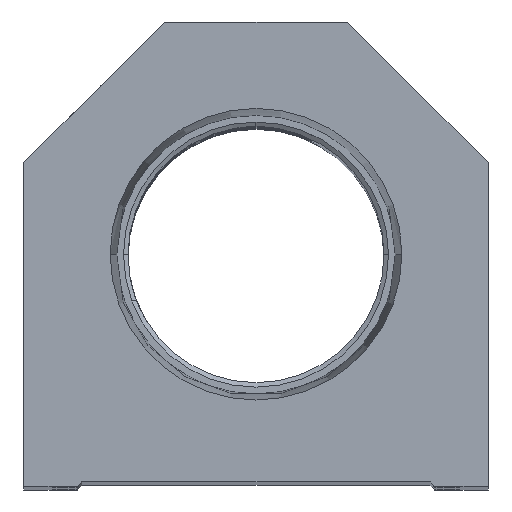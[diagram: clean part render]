
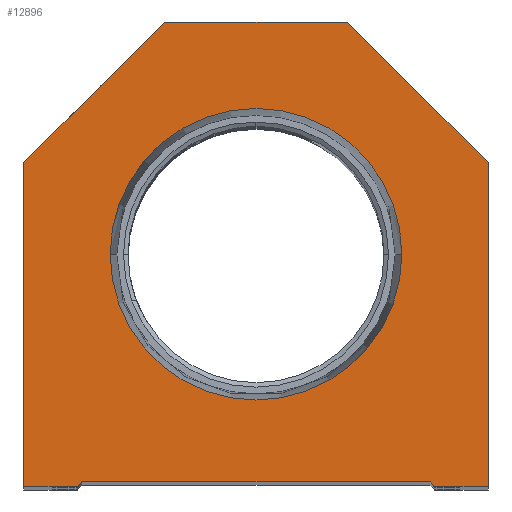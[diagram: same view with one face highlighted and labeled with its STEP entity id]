
A CAD part, top view. The second image highlights one B-rep face of the part: STEP entity #12896.
In plain terms, the highlighted planar face has unit normal (0, 0, 1).
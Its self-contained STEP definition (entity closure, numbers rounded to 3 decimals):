
#426 = ORIENTED_EDGE ( 'NONE', *, *, #10719, .T. ) ;
#454 = ORIENTED_EDGE ( 'NONE', *, *, #18433, .T. ) ;
#851 = DIRECTION ( 'NONE',  ( -0.707, 0.707, 0. ) ) ;
#1131 = DIRECTION ( 'NONE',  ( 1., 0., 0. ) ) ;
#1247 = CIRCLE ( 'NONE', #12909, 15.947 ) ;
#1484 = CARTESIAN_POINT ( 'NONE',  ( 10., 50.8, 0. ) ) ;
#2012 = EDGE_CURVE ( 'NONE', #6857, #8100, #1247, .T. ) ;
#2230 = DIRECTION ( 'NONE',  ( 0.707, -0.707, 0. ) ) ;
#2273 = VERTEX_POINT ( 'NONE', #10063 ) ;
#2659 = EDGE_CURVE ( 'NONE', #7450, #7193, #18066, .T. ) ;
#2679 = ORIENTED_EDGE ( 'NONE', *, *, #5629, .T. ) ;
#2766 = AXIS2_PLACEMENT_3D ( 'NONE', #5422, #19275, #13324 ) ;
#3266 = DIRECTION ( 'NONE',  ( 1., 0., 0. ) ) ;
#3482 = VECTOR ( 'NONE', #5073, 1000. ) ;
#3712 = LINE ( 'NONE', #17856, #13390 ) ;
#4009 = VERTEX_POINT ( 'NONE', #19668 ) ;
#4215 = ORIENTED_EDGE ( 'NONE', *, *, #16761, .T. ) ;
#4740 = CARTESIAN_POINT ( 'NONE',  ( 19.05, 0., 0. ) ) ;
#5013 = ORIENTED_EDGE ( 'NONE', *, *, #14643, .T. ) ;
#5073 = DIRECTION ( 'NONE',  ( 1., 0., 0. ) ) ;
#5201 = EDGE_LOOP ( 'NONE', ( #454, #18058, #5013, #10472, #8407, #2679, #13907, #426, #4215, #13938 ) ) ;
#5394 = VERTEX_POINT ( 'NONE', #12248 ) ;
#5422 = CARTESIAN_POINT ( 'NONE',  ( 0., 0., 0. ) ) ;
#5501 = VERTEX_POINT ( 'NONE', #13228 ) ;
#5629 = EDGE_CURVE ( 'NONE', #4009, #19317, #12615, .T. ) ;
#5876 = VERTEX_POINT ( 'NONE', #8430 ) ;
#6105 = VECTOR ( 'NONE', #9220, 1000. ) ;
#6107 = LINE ( 'NONE', #4740, #6105 ) ;
#6392 = DIRECTION ( 'NONE',  ( 0., 1., 0. ) ) ;
#6583 = AXIS2_PLACEMENT_3D ( 'NONE', #8033, #20534, #3266 ) ;
#6857 = VERTEX_POINT ( 'NONE', #11455 ) ;
#7039 = DIRECTION ( 'NONE',  ( 1., 0., 0. ) ) ;
#7193 = VERTEX_POINT ( 'NONE', #15036 ) ;
#7292 = EDGE_CURVE ( 'NONE', #8100, #6857, #15203, .T. ) ;
#7450 = VERTEX_POINT ( 'NONE', #11895 ) ;
#7833 = DIRECTION ( 'NONE',  ( -1., 0., 0. ) ) ;
#7975 = ORIENTED_EDGE ( 'NONE', *, *, #2012, .F. ) ;
#8033 = CARTESIAN_POINT ( 'NONE',  ( 0., 25.4, 0. ) ) ;
#8100 = VERTEX_POINT ( 'NONE', #8592 ) ;
#8407 = ORIENTED_EDGE ( 'NONE', *, *, #13472, .T. ) ;
#8430 = CARTESIAN_POINT ( 'NONE',  ( 10., 50.8, 0. ) ) ;
#8592 = CARTESIAN_POINT ( 'NONE',  ( -15.947, 25.4, 0. ) ) ;
#8712 = VERTEX_POINT ( 'NONE', #12260 ) ;
#9220 = DIRECTION ( 'NONE',  ( 1., 0., 0. ) ) ;
#9600 = LINE ( 'NONE', #1484, #15639 ) ;
#10063 = CARTESIAN_POINT ( 'NONE',  ( -19.55, 0., 0. ) ) ;
#10250 = LINE ( 'NONE', #12018, #11898 ) ;
#10423 = DIRECTION ( 'NONE',  ( 0., -1., 0. ) ) ;
#10472 = ORIENTED_EDGE ( 'NONE', *, *, #2659, .T. ) ;
#10561 = CARTESIAN_POINT ( 'NONE',  ( 25.4, 35.4, 0. ) ) ;
#10719 = EDGE_CURVE ( 'NONE', #5876, #8712, #9600, .T. ) ;
#10775 = VECTOR ( 'NONE', #10423, 1000. ) ;
#10813 = CARTESIAN_POINT ( 'NONE',  ( -25.4, 35.4, 0. ) ) ;
#10994 = VECTOR ( 'NONE', #6392, 1000. ) ;
#11455 = CARTESIAN_POINT ( 'NONE',  ( 15.947, 25.4, 0. ) ) ;
#11852 = VECTOR ( 'NONE', #851, 1000. ) ;
#11895 = CARTESIAN_POINT ( 'NONE',  ( 19.05, 0.5, 0. ) ) ;
#11898 = VECTOR ( 'NONE', #7039, 1000. ) ;
#12018 = CARTESIAN_POINT ( 'NONE',  ( -19.05, 0.5, 0. ) ) ;
#12248 = CARTESIAN_POINT ( 'NONE',  ( -25.4, 35.4, 0. ) ) ;
#12260 = CARTESIAN_POINT ( 'NONE',  ( -10., 50.8, 0. ) ) ;
#12615 = LINE ( 'NONE', #18877, #10994 ) ;
#12712 = EDGE_CURVE ( 'NONE', #5394, #14373, #13855, .T. ) ;
#12896 = ADVANCED_FACE ( 'NONE', ( #16344, #19382 ), #16444, .T. ) ;
#12909 = AXIS2_PLACEMENT_3D ( 'NONE', #18945, #17365, #1131 ) ;
#13093 = VECTOR ( 'NONE', #15905, 1000. ) ;
#13228 = CARTESIAN_POINT ( 'NONE',  ( -19.05, 0.5, 0. ) ) ;
#13324 = DIRECTION ( 'NONE',  ( 1., 0., 0. ) ) ;
#13390 = VECTOR ( 'NONE', #16294, 1000. ) ;
#13472 = EDGE_CURVE ( 'NONE', #7193, #4009, #6107, .T. ) ;
#13655 = EDGE_CURVE ( 'NONE', #2273, #5501, #3712, .T. ) ;
#13662 = CARTESIAN_POINT ( 'NONE',  ( 25.4, 35.4, 0. ) ) ;
#13855 = LINE ( 'NONE', #13964, #10775 ) ;
#13907 = ORIENTED_EDGE ( 'NONE', *, *, #19704, .T. ) ;
#13938 = ORIENTED_EDGE ( 'NONE', *, *, #12712, .T. ) ;
#13964 = CARTESIAN_POINT ( 'NONE',  ( -25.4, 0., 0. ) ) ;
#14354 = LINE ( 'NONE', #19352, #3482 ) ;
#14373 = VERTEX_POINT ( 'NONE', #15793 ) ;
#14643 = EDGE_CURVE ( 'NONE', #5501, #7450, #10250, .T. ) ;
#15036 = CARTESIAN_POINT ( 'NONE',  ( 19.55, 0., 0. ) ) ;
#15203 = CIRCLE ( 'NONE', #6583, 15.947 ) ;
#15639 = VECTOR ( 'NONE', #7833, 1000. ) ;
#15793 = CARTESIAN_POINT ( 'NONE',  ( -25.4, 0., 0. ) ) ;
#15905 = DIRECTION ( 'NONE',  ( -0.707, -0.707, 0. ) ) ;
#16287 = CARTESIAN_POINT ( 'NONE',  ( 9.775, 9.775, 0. ) ) ;
#16294 = DIRECTION ( 'NONE',  ( 0.707, 0.707, 0. ) ) ;
#16344 = FACE_BOUND ( 'NONE', #19692, .T. ) ;
#16444 = PLANE ( 'NONE',  #2766 ) ;
#16761 = EDGE_CURVE ( 'NONE', #8712, #5394, #17247, .T. ) ;
#17247 = LINE ( 'NONE', #10813, #13093 ) ;
#17365 = DIRECTION ( 'NONE',  ( 0., 0., 1. ) ) ;
#17856 = CARTESIAN_POINT ( 'NONE',  ( -9.775, 9.775, 0. ) ) ;
#18058 = ORIENTED_EDGE ( 'NONE', *, *, #13655, .T. ) ;
#18066 = LINE ( 'NONE', #16287, #18321 ) ;
#18321 = VECTOR ( 'NONE', #2230, 1000. ) ;
#18433 = EDGE_CURVE ( 'NONE', #14373, #2273, #14354, .T. ) ;
#18877 = CARTESIAN_POINT ( 'NONE',  ( 25.4, 0., 0. ) ) ;
#18945 = CARTESIAN_POINT ( 'NONE',  ( 0., 25.4, 0. ) ) ;
#19275 = DIRECTION ( 'NONE',  ( 0., 0., 1. ) ) ;
#19317 = VERTEX_POINT ( 'NONE', #10561 ) ;
#19352 = CARTESIAN_POINT ( 'NONE',  ( -19.05, 0., 0. ) ) ;
#19382 = FACE_OUTER_BOUND ( 'NONE', #5201, .T. ) ;
#19668 = CARTESIAN_POINT ( 'NONE',  ( 25.4, 0., 0. ) ) ;
#19692 = EDGE_LOOP ( 'NONE', ( #7975, #20397 ) ) ;
#19704 = EDGE_CURVE ( 'NONE', #19317, #5876, #19739, .T. ) ;
#19739 = LINE ( 'NONE', #13662, #11852 ) ;
#20397 = ORIENTED_EDGE ( 'NONE', *, *, #7292, .F. ) ;
#20534 = DIRECTION ( 'NONE',  ( 0., 0., 1. ) ) ;
